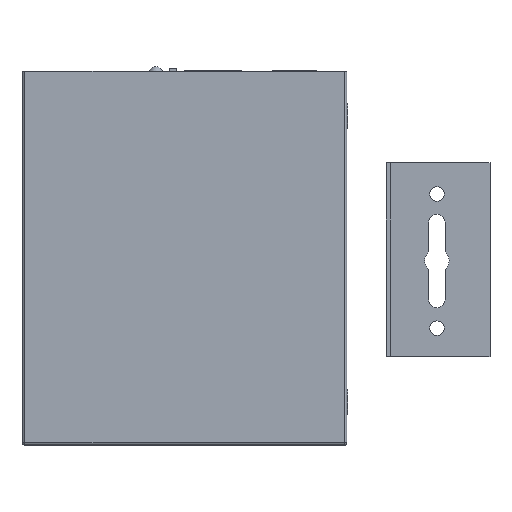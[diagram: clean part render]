
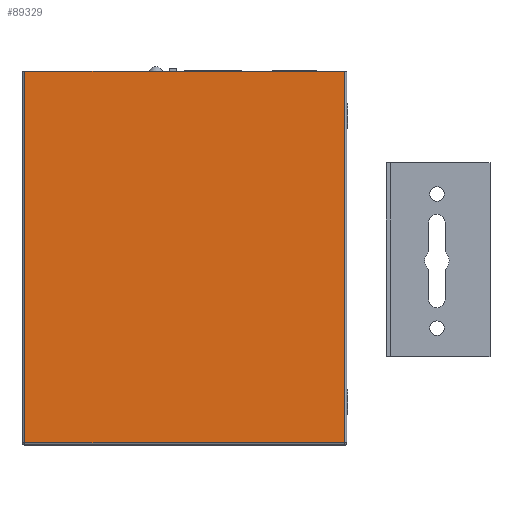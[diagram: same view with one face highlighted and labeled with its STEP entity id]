
A CAD part, top view. The second image highlights one B-rep face of the part: STEP entity #89329.
In plain terms, the highlighted planar face has unit normal (0, 0, 1).
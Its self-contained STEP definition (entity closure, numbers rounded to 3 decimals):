
#89329 = ADVANCED_FACE('',(#89330),#89364,.T.);
#89330 = FACE_BOUND('',#89331,.T.);
#89331 = EDGE_LOOP('',(#89332,#89342,#89350,#89358));
#89332 = ORIENTED_EDGE('',*,*,#89333,.T.);
#89333 = EDGE_CURVE('',#89334,#89336,#89338,.T.);
#89334 = VERTEX_POINT('',#89335);
#89335 = CARTESIAN_POINT('',(66.4,0.5,26.5));
#89336 = VERTEX_POINT('',#89337);
#89337 = CARTESIAN_POINT('',(66.4,77.1,26.5));
#89338 = LINE('',#89339,#89340);
#89339 = CARTESIAN_POINT('',(66.4,0.,26.5));
#89340 = VECTOR('',#89341,1.);
#89341 = DIRECTION('',(0.,1.,0.));
#89342 = ORIENTED_EDGE('',*,*,#89343,.F.);
#89343 = EDGE_CURVE('',#89344,#89336,#89346,.T.);
#89344 = VERTEX_POINT('',#89345);
#89345 = CARTESIAN_POINT('',(0.5,77.1,26.5));
#89346 = LINE('',#89347,#89348);
#89347 = CARTESIAN_POINT('',(0.,77.1,26.5));
#89348 = VECTOR('',#89349,1.);
#89349 = DIRECTION('',(1.,0.,0.));
#89350 = ORIENTED_EDGE('',*,*,#89351,.F.);
#89351 = EDGE_CURVE('',#89352,#89344,#89354,.T.);
#89352 = VERTEX_POINT('',#89353);
#89353 = CARTESIAN_POINT('',(0.5,0.5,26.5));
#89354 = LINE('',#89355,#89356);
#89355 = CARTESIAN_POINT('',(0.5,0.,26.5));
#89356 = VECTOR('',#89357,1.);
#89357 = DIRECTION('',(0.,1.,0.));
#89358 = ORIENTED_EDGE('',*,*,#89359,.T.);
#89359 = EDGE_CURVE('',#89352,#89334,#89360,.T.);
#89360 = LINE('',#89361,#89362);
#89361 = CARTESIAN_POINT('',(0.5,0.5,26.5));
#89362 = VECTOR('',#89363,1.);
#89363 = DIRECTION('',(1.,0.,0.));
#89364 = PLANE('',#89365);
#89365 = AXIS2_PLACEMENT_3D('',#89366,#89367,#89368);
#89366 = CARTESIAN_POINT('',(0.,0.,26.5));
#89367 = DIRECTION('',(0.,0.,1.));
#89368 = DIRECTION('',(1.,0.,0.));
